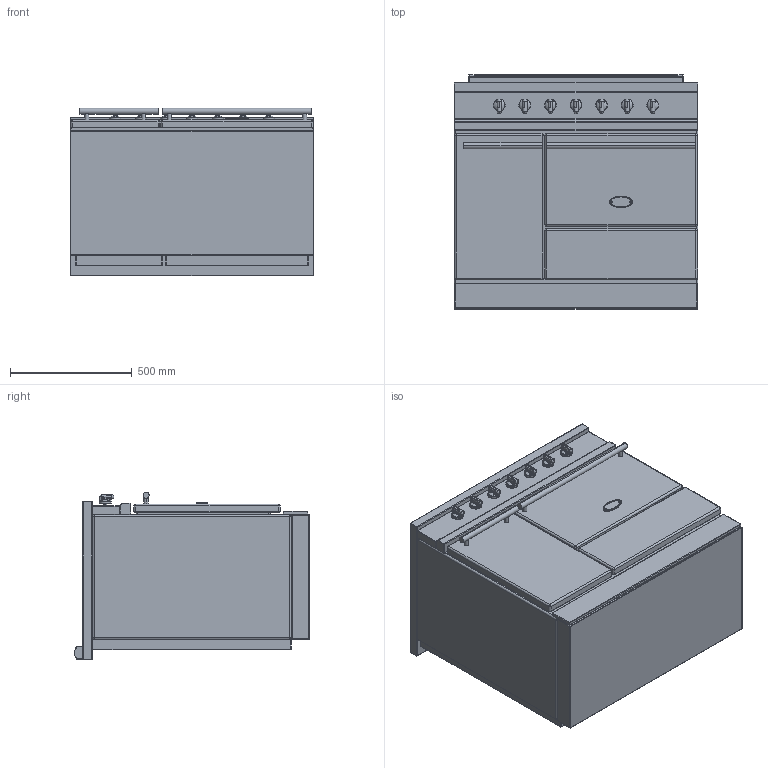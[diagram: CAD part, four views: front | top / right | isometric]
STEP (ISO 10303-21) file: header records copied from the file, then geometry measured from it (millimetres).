
FILE_DESCRIPTION((''),'2;1');
FILE_NAME('LMVI1051_VOLNAY_ASM','2022-04-13T12:00:06',('stagiaire'),(''),'CREO PARAMETRIC BY PTC INC, 2021424','CREO PARAMETRIC BY PTC INC, 2021424','');
FILE_SCHEMA(('AP203_CONFIGURATION_CONTROLLED_3D_DESIGN_OF_MECHANICAL_PARTS_AND_ASSEMBLIES_MIM_LF { 1 0 10303 403 2 1 2 }'));
Products named in the file (12): BASE_EXPORT_VOLNAY_MODERN; 65049009; 65650001; 65064012; 19150009; 88064012_ASM; BASE_EXPORT_VOLNAY_MODERN_ASM; TABLE_1000_INDUCTION; 65052013; CHEMINEE_2020_LG882_EXPORT_STEP; TABLE_1000_INDUCTION_ASM; LMVI1051_VOLNAY_ASM
Assembly tree (17 placements, depth 4):
  LMVI1051_VOLNAY_ASM
    BASE_EXPORT_VOLNAY_MODERN_ASM
      BASE_EXPORT_VOLNAY_MODERN
      65049009
      65650001
      88064012_ASM  x7
        65064012
        19150009
    TABLE_1000_INDUCTION_ASM
      TABLE_1000_INDUCTION
      65052013
      CHEMINEE_2020_LG882_EXPORT_STEP
Bounding box: 1000 x 963 x 687.5 mm (x, y, z)
Volume: 541822081.4 mm3; surface area: 8862667.6 mm2
Topology: 24 solids, 24 shells, 2976 faces, 8544 edges, 5447 vertices
Faces by surface type: plane 1304, cylinder 1088, sphere 252, bspline 225, torus 71, cone 34, extrusion 2
Entity records: 90205 total; most frequent: CARTESIAN_POINT 21939, ORIENTED_EDGE 12316, DIRECTION 11855, EDGE_CURVE 6158, VECTOR 4712, LINE 4710, VERTEX_POINT 3987, AXIS2_PLACEMENT_3D 3555
